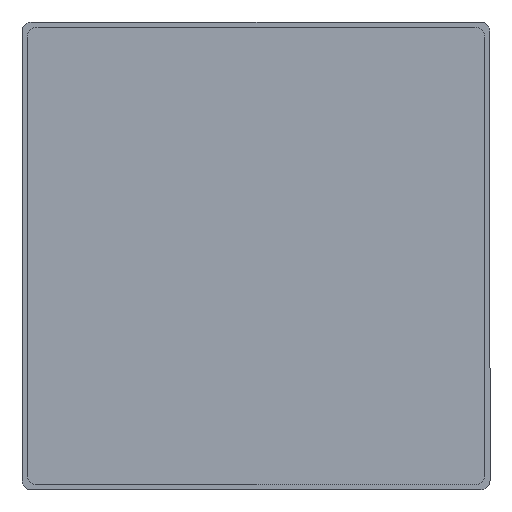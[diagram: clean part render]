
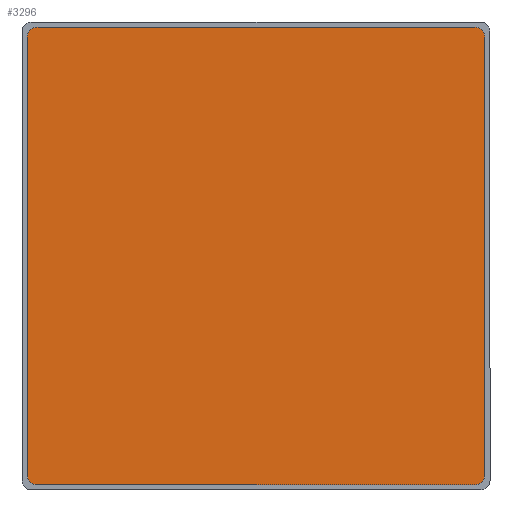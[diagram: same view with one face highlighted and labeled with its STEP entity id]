
A CAD part, top view. The second image highlights one B-rep face of the part: STEP entity #3296.
In plain terms, the highlighted planar face has unit normal (0, 0, 1).
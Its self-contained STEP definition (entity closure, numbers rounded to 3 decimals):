
#1 = DIRECTION ( 'NONE',  ( 0., 1., 0. ) ) ;
#19 = LINE ( 'NONE', #1956, #4054 ) ;
#20 = ORIENTED_EDGE ( 'NONE', *, *, #390, .T. ) ;
#38 = AXIS2_PLACEMENT_3D ( 'NONE', #2649, #994, #1388 ) ;
#88 = LINE ( 'NONE', #3290, #474 ) ;
#168 = VECTOR ( 'NONE', #1, 1000. ) ;
#311 = CARTESIAN_POINT ( 'NONE',  ( 190.5, 190.5, -2. ) ) ;
#332 = EDGE_CURVE ( 'NONE', #3858, #672, #1347, .T. ) ;
#390 = EDGE_CURVE ( 'NONE', #3301, #4084, #3651, .T. ) ;
#411 = DIRECTION ( 'NONE',  ( -1., 0., 0. ) ) ;
#474 = VECTOR ( 'NONE', #1020, 1000. ) ;
#536 = DIRECTION ( 'NONE',  ( 0., -1., 0. ) ) ;
#672 = VERTEX_POINT ( 'NONE', #2809 ) ;
#676 = AXIS2_PLACEMENT_3D ( 'NONE', #3896, #2272, #3528 ) ;
#698 = CIRCLE ( 'NONE', #38, 8. ) ;
#791 = EDGE_CURVE ( 'NONE', #672, #3301, #88, .T. ) ;
#853 = VERTEX_POINT ( 'NONE', #1374 ) ;
#876 = CIRCLE ( 'NONE', #2986, 8. ) ;
#944 = PLANE ( 'NONE',  #3187 ) ;
#984 = DIRECTION ( 'NONE',  ( 0., 0., 1. ) ) ;
#994 = DIRECTION ( 'NONE',  ( 0., 0., 1. ) ) ;
#1020 = DIRECTION ( 'NONE',  ( 1., 0., 0. ) ) ;
#1033 = CARTESIAN_POINT ( 'NONE',  ( 190.5, -182.5, -2. ) ) ;
#1070 = VECTOR ( 'NONE', #536, 1000. ) ;
#1268 = CARTESIAN_POINT ( 'NONE',  ( 190.5, 182.5, -2. ) ) ;
#1301 = CARTESIAN_POINT ( 'NONE',  ( 182.5, 182.5, -2. ) ) ;
#1347 = CIRCLE ( 'NONE', #676, 8. ) ;
#1351 = EDGE_CURVE ( 'NONE', #4084, #1400, #1547, .T. ) ;
#1374 = CARTESIAN_POINT ( 'NONE',  ( -182.5, 190.5, -2. ) ) ;
#1388 = DIRECTION ( 'NONE',  ( -1., 0., 0. ) ) ;
#1400 = VERTEX_POINT ( 'NONE', #1268 ) ;
#1412 = CARTESIAN_POINT ( 'NONE',  ( -190.5, 190.5, -2. ) ) ;
#1439 = DIRECTION ( 'NONE',  ( -1., 0., 0. ) ) ;
#1447 = EDGE_LOOP ( 'NONE', ( #2973, #3641, #2604, #20, #2762, #3204, #2913, #2533 ) ) ;
#1547 = LINE ( 'NONE', #311, #168 ) ;
#1593 = DIRECTION ( 'NONE',  ( 0., 0., -1. ) ) ;
#1636 = EDGE_CURVE ( 'NONE', #853, #3049, #698, .T. ) ;
#1674 = CARTESIAN_POINT ( 'NONE',  ( 182.5, -182.5, -2. ) ) ;
#1906 = CARTESIAN_POINT ( 'NONE',  ( 0., 0., -2. ) ) ;
#1956 = CARTESIAN_POINT ( 'NONE',  ( 190.5, 190.5, -2. ) ) ;
#1969 = FACE_OUTER_BOUND ( 'NONE', #1447, .T. ) ;
#1989 = DIRECTION ( 'NONE',  ( -1., 0., 0. ) ) ;
#2018 = EDGE_CURVE ( 'NONE', #3049, #3858, #3005, .T. ) ;
#2272 = DIRECTION ( 'NONE',  ( 0., 0., 1. ) ) ;
#2450 = EDGE_CURVE ( 'NONE', #3952, #853, #19, .T. ) ;
#2533 = ORIENTED_EDGE ( 'NONE', *, *, #1636, .T. ) ;
#2564 = DIRECTION ( 'NONE',  ( -1., 0., 0. ) ) ;
#2604 = ORIENTED_EDGE ( 'NONE', *, *, #791, .T. ) ;
#2649 = CARTESIAN_POINT ( 'NONE',  ( -182.5, 182.5, -2. ) ) ;
#2691 = CARTESIAN_POINT ( 'NONE',  ( -190.5, -182.5, -2. ) ) ;
#2719 = CARTESIAN_POINT ( 'NONE',  ( -190.5, 182.5, -2. ) ) ;
#2762 = ORIENTED_EDGE ( 'NONE', *, *, #1351, .T. ) ;
#2809 = CARTESIAN_POINT ( 'NONE',  ( -182.5, -190.5, -2. ) ) ;
#2913 = ORIENTED_EDGE ( 'NONE', *, *, #2450, .T. ) ;
#2973 = ORIENTED_EDGE ( 'NONE', *, *, #2018, .T. ) ;
#2986 = AXIS2_PLACEMENT_3D ( 'NONE', #1301, #984, #1989 ) ;
#3005 = LINE ( 'NONE', #1412, #1070 ) ;
#3049 = VERTEX_POINT ( 'NONE', #2719 ) ;
#3187 = AXIS2_PLACEMENT_3D ( 'NONE', #1906, #1593, #2564 ) ;
#3188 = EDGE_CURVE ( 'NONE', #1400, #3952, #876, .T. ) ;
#3204 = ORIENTED_EDGE ( 'NONE', *, *, #3188, .T. ) ;
#3290 = CARTESIAN_POINT ( 'NONE',  ( 190.5, -190.5, -2. ) ) ;
#3296 = ADVANCED_FACE ( 'NONE', ( #1969 ), #944, .F. ) ;
#3301 = VERTEX_POINT ( 'NONE', #3552 ) ;
#3320 = AXIS2_PLACEMENT_3D ( 'NONE', #1674, #3604, #1439 ) ;
#3528 = DIRECTION ( 'NONE',  ( -1., 0., 0. ) ) ;
#3552 = CARTESIAN_POINT ( 'NONE',  ( 182.5, -190.5, -2. ) ) ;
#3604 = DIRECTION ( 'NONE',  ( 0., 0., 1. ) ) ;
#3641 = ORIENTED_EDGE ( 'NONE', *, *, #332, .T. ) ;
#3651 = CIRCLE ( 'NONE', #3320, 8. ) ;
#3765 = CARTESIAN_POINT ( 'NONE',  ( 182.5, 190.5, -2. ) ) ;
#3858 = VERTEX_POINT ( 'NONE', #2691 ) ;
#3896 = CARTESIAN_POINT ( 'NONE',  ( -182.5, -182.5, -2. ) ) ;
#3952 = VERTEX_POINT ( 'NONE', #3765 ) ;
#4054 = VECTOR ( 'NONE', #411, 1000. ) ;
#4084 = VERTEX_POINT ( 'NONE', #1033 ) ;
